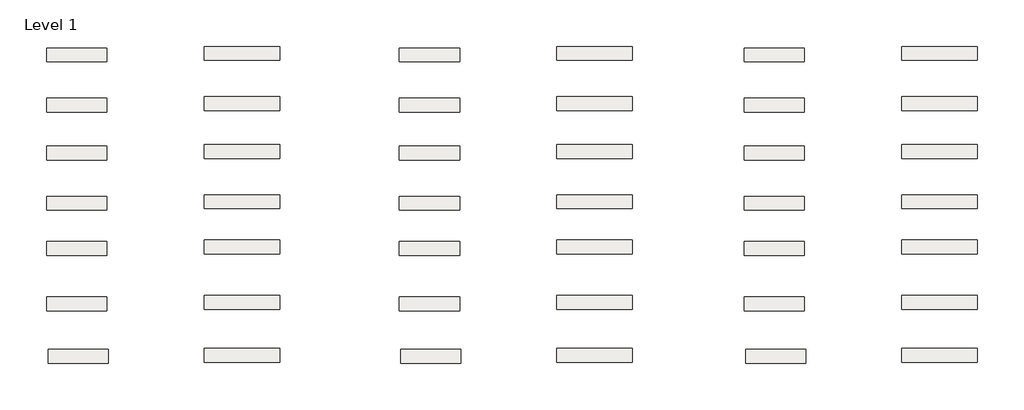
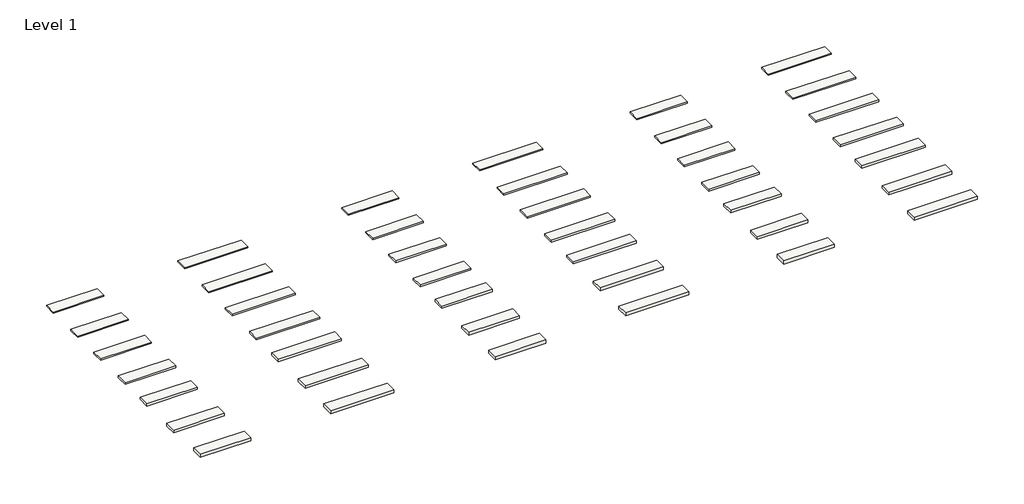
# One storey: 42 roofs.
"""IFC4 building model written with IfcOpenShell, lengths in millimetres."""

from ifc_helpers import new_model, si_unit, origin, origin_with_axes, place, context, project, spatial, polyline, outline, extrude, element, save

model = new_model("IFC4")

# Units and contexts
model_context = context("Model", 3, world=origin())
ifc_project = project(units=[si_unit("LENGTHUNIT", "METRE", prefix="MILLI")], contexts=[model_context])

# Site, building, storey
site = spatial("IfcSite", under=ifc_project)
building = spatial("IfcBuilding", under=site)
storey = spatial("IfcBuildingStorey", under=building, Name="Level 1", Elevation=0.0)

# Roofs
placement = place(None, origin())
element("IfcRoof", 1, ObjectType="Panel Thermochip TH 10-40 (2400x550)", at=placement, inside=storey, context=model_context, shape_type="SweptSolid", body=[
    extrude(outline(polyline([(-17878.9678788, 6399.8223879), (-15478.9678788, 6399.8223879), (-15478.9678788, 5849.8223879), (-17878.9678788, 5849.8223879), (-17878.9678788, 6399.8223879)])), origin_with_axes(), (0.0, 0.0, 1.0), 50.0),
])
element("IfcRoof", 2, ObjectType="Panel Thermochip TH 10-50 (2400x550)", at=placement, inside=storey, context=model_context, shape_type="SweptSolid", body=[
    extrude(outline(polyline([(-17878.9678788, 4399.8223879), (-15478.9678788, 4399.8223879), (-15478.9678788, 3849.8223879), (-17878.9678788, 3849.8223879), (-17878.9678788, 4399.8223879)])), origin_with_axes(), (0.0, 0.0, 1.0), 60.0),
])
element("IfcRoof", 3, ObjectType="Panel Thermochip TH 10-60 (2400x550)", at=placement, inside=storey, context=model_context, shape_type="SweptSolid", body=[
    extrude(outline(polyline([(-17878.9678788, 2499.8223879), (-15478.9678788, 2499.8223879), (-15478.9678788, 1949.8223879), (-17878.9678788, 1949.8223879), (-17878.9678788, 2499.8223879)])), origin_with_axes(), (0.0, 0.0, 1.0), 70.0),
])
element("IfcRoof", 4, ObjectType="Panel Thermochip TH 10-80 (2400x550)", at=placement, inside=storey, context=model_context, shape_type="SweptSolid", body=[
    extrude(outline(polyline([(-17878.9678788, 499.8223879), (-15478.9678788, 499.8223879), (-15478.9678788, -50.1776121), (-17878.9678788, -50.1776121), (-17878.9678788, 499.8223879)])), origin_with_axes(), (0.0, 0.0, 1.0), 90.0),
])
element("IfcRoof", 5, ObjectType="Panel Thermochip TH 10-100 (2400x550)", at=placement, inside=storey, context=model_context, shape_type="SweptSolid", body=[
    extrude(outline(polyline([(-17878.9678788, -1300.1776121), (-15478.9678788, -1300.1776121), (-15478.9678788, -1850.1776121), (-17878.9678788, -1850.1776121), (-17878.9678788, -1300.1776121)])), origin_with_axes(), (0.0, 0.0, 1.0), 110.0),
])
element("IfcRoof", 6, ObjectType="Panel Thermochip TH 10-120 (2400x550)", at=placement, inside=storey, context=model_context, shape_type="SweptSolid", body=[
    extrude(outline(polyline([(-17878.9678788, -3500.1776121), (-15478.9678788, -3500.1776121), (-15478.9678788, -4050.1776121), (-17878.9678788, -4050.1776121), (-17878.9678788, -3500.1776121)])), origin_with_axes(), (0.0, 0.0, 1.0), 130.0),
])
element("IfcRoof", 7, ObjectType="Panel Thermochip TH 10-140 (2400x550)", at=placement, inside=storey, context=model_context, shape_type="SweptSolid", body=[
    extrude(outline(polyline([(-17820.3390717, -5581.0046098), (-15420.3390717, -5581.0046098), (-15420.3390717, -6131.0046098), (-17820.3390717, -6131.0046098), (-17820.3390717, -5581.0046098)])), origin_with_axes(), (0.0, 0.0, 1.0), 150.0),
])
element("IfcRoof", 8, ObjectType="Panel Thermochip TH 10-40 (3000x550)", at=placement, inside=storey, context=model_context, shape_type="SweptSolid", body=[
    extrude(outline(polyline([(-11610.4474716, 6460.3549134), (-8610.4474716, 6460.3549134), (-8610.4474716, 5910.3549134), (-11610.4474716, 5910.3549134), (-11610.4474716, 6460.3549134)])), origin_with_axes(), (0.0, 0.0, 1.0), 50.0),
])
element("IfcRoof", 9, ObjectType="Panel Thermochip TH 10-50 (3000x550)", at=placement, inside=storey, context=model_context, shape_type="SweptSolid", body=[
    extrude(outline(polyline([(-11610.4474716, 4460.3549134), (-8610.4474716, 4460.3549134), (-8610.4474716, 3910.3549134), (-11610.4474716, 3910.3549134), (-11610.4474716, 4460.3549134)])), origin_with_axes(), (0.0, 0.0, 1.0), 60.0),
])
element("IfcRoof", 10, ObjectType="Panel Thermochip TH 10-60 (3000x550)", at=placement, inside=storey, context=model_context, shape_type="SweptSolid", body=[
    extrude(outline(polyline([(-11610.4474716, 2560.3549134), (-8610.4474716, 2560.3549134), (-8610.4474716, 2010.3549134), (-11610.4474716, 2010.3549134), (-11610.4474716, 2560.3549134)])), origin_with_axes(), (0.0, 0.0, 1.0), 70.0),
])
element("IfcRoof", 11, ObjectType="Panel Thermochip TH 10-80 (3000x550)", at=placement, inside=storey, context=model_context, shape_type="SweptSolid", body=[
    extrude(outline(polyline([(-11610.4474716, 560.3549134), (-8610.4474716, 560.3549134), (-8610.4474716, 10.3549134), (-11610.4474716, 10.3549134), (-11610.4474716, 560.3549134)])), origin_with_axes(), (0.0, 0.0, 1.0), 90.0),
])
element("IfcRoof", 12, ObjectType="Panel Thermochip TH 10-100 (3000x550)", at=placement, inside=storey, context=model_context, shape_type="SweptSolid", body=[
    extrude(outline(polyline([(-11610.4474716, -1239.6450866), (-8610.4474716, -1239.6450866), (-8610.4474716, -1789.6450866), (-11610.4474716, -1789.6450866), (-11610.4474716, -1239.6450866)])), origin_with_axes(), (0.0, 0.0, 1.0), 110.0),
])
element("IfcRoof", 13, ObjectType="Panel Thermochip TH 10-120 (3000x600)", at=placement, inside=storey, context=model_context, shape_type="SweptSolid", body=[
    extrude(outline(polyline([(-11610.4474716, -3439.6450866), (-8610.4474716, -3439.6450866), (-8610.4474716, -3989.6450866), (-11610.4474716, -3989.6450866), (-11610.4474716, -3439.6450866)])), origin_with_axes(), (0.0, 0.0, 1.0), 130.0),
])
element("IfcRoof", 14, ObjectType="Panel Thermochip TH 10-140 (3000x550)", at=placement, inside=storey, context=model_context, shape_type="SweptSolid", body=[
    extrude(outline(polyline([(-11610.4474716, -5539.6450866), (-8610.4474716, -5539.6450866), (-8610.4474716, -6089.6450866), (-11610.4474716, -6089.6450866), (-11610.4474716, -5539.6450866)])), origin_with_axes(), (0.0, 0.0, 1.0), 150.0),
])
element("IfcRoof", 15, ObjectType="Panel Thermochip TH 16-40 (2400x550)", at=placement, inside=storey, context=model_context, shape_type="SweptSolid", body=[
    extrude(outline(polyline([(-3878.9678788, 6399.8223879), (-1478.9678788, 6399.8223879), (-1478.9678788, 5849.8223879), (-3878.9678788, 5849.8223879), (-3878.9678788, 6399.8223879)])), origin_with_axes(), (0.0, 0.0, 1.0), 56.0),
])
element("IfcRoof", 16, ObjectType="Panel Thermochip TH 16-50 (2400x550)", at=placement, inside=storey, context=model_context, shape_type="SweptSolid", body=[
    extrude(outline(polyline([(-3878.9678788, 4399.8223879), (-1478.9678788, 4399.8223879), (-1478.9678788, 3849.8223879), (-3878.9678788, 3849.8223879), (-3878.9678788, 4399.8223879)])), origin_with_axes(), (0.0, 0.0, 1.0), 66.0),
])
element("IfcRoof", 17, ObjectType="Panel Thermochip TH 16-60 (2400x550)", at=placement, inside=storey, context=model_context, shape_type="SweptSolid", body=[
    extrude(outline(polyline([(-3878.9678788, 2499.8223879), (-1478.9678788, 2499.8223879), (-1478.9678788, 1949.8223879), (-3878.9678788, 1949.8223879), (-3878.9678788, 2499.8223879)])), origin_with_axes(), (0.0, 0.0, 1.0), 76.0),
])
element("IfcRoof", 18, ObjectType="Panel Thermochip TH 16-80 (2400x550)", at=placement, inside=storey, context=model_context, shape_type="SweptSolid", body=[
    extrude(outline(polyline([(-3878.9678788, 499.8223879), (-1478.9678788, 499.8223879), (-1478.9678788, -50.1776121), (-3878.9678788, -50.1776121), (-3878.9678788, 499.8223879)])), origin_with_axes(), (0.0, 0.0, 1.0), 96.0),
])
element("IfcRoof", 19, ObjectType="Panel Thermochip TH 16-100 (2400x550)", at=placement, inside=storey, context=model_context, shape_type="SweptSolid", body=[
    extrude(outline(polyline([(-3878.9678788, -1300.1776121), (-1478.9678788, -1300.1776121), (-1478.9678788, -1850.1776121), (-3878.9678788, -1850.1776121), (-3878.9678788, -1300.1776121)])), origin_with_axes(), (0.0, 0.0, 1.0), 116.0),
])
element("IfcRoof", 20, ObjectType="Panel Thermochip TH 16-120 (2400x550)", at=placement, inside=storey, context=model_context, shape_type="SweptSolid", body=[
    extrude(outline(polyline([(-3878.9678788, -3500.1776121), (-1478.9678788, -3500.1776121), (-1478.9678788, -4050.1776121), (-3878.9678788, -4050.1776121), (-3878.9678788, -3500.1776121)])), origin_with_axes(), (0.0, 0.0, 1.0), 136.0),
])
element("IfcRoof", 21, ObjectType="Panel Thermochip TH 16-140 (2400x550)", at=placement, inside=storey, context=model_context, shape_type="SweptSolid", body=[
    extrude(outline(polyline([(-3820.3390717, -5581.0046098), (-1420.3390717, -5581.0046098), (-1420.3390717, -6131.0046098), (-3820.3390717, -6131.0046098), (-3820.3390717, -5581.0046098)])), origin_with_axes(), (0.0, 0.0, 1.0), 156.0),
])
element("IfcRoof", 22, ObjectType="Panel Thermochip TH 16-40 (3000x550)", at=placement, inside=storey, context=model_context, shape_type="SweptSolid", body=[
    extrude(outline(polyline([(2389.5525284, 6460.3549134), (5389.5525284, 6460.3549134), (5389.5525284, 5910.3549134), (2389.5525284, 5910.3549134), (2389.5525284, 6460.3549134)])), origin_with_axes(), (0.0, 0.0, 1.0), 56.0),
])
element("IfcRoof", 23, ObjectType="Panel Thermochip TH 16-50 (3000x550)", at=placement, inside=storey, context=model_context, shape_type="SweptSolid", body=[
    extrude(outline(polyline([(2389.5525284, 4460.3549134), (5389.5525284, 4460.3549134), (5389.5525284, 3910.3549134), (2389.5525284, 3910.3549134), (2389.5525284, 4460.3549134)])), origin_with_axes(), (0.0, 0.0, 1.0), 66.0),
])
element("IfcRoof", 24, ObjectType="Panel Thermochip TH 16-60 (3000x550)", at=placement, inside=storey, context=model_context, shape_type="SweptSolid", body=[
    extrude(outline(polyline([(2389.5525284, 2560.3549134), (5389.5525284, 2560.3549134), (5389.5525284, 2010.3549134), (2389.5525284, 2010.3549134), (2389.5525284, 2560.3549134)])), origin_with_axes(), (0.0, 0.0, 1.0), 76.0),
])
element("IfcRoof", 25, ObjectType="Panel Thermochip TH 16-80 (3000x550)", at=placement, inside=storey, context=model_context, shape_type="SweptSolid", body=[
    extrude(outline(polyline([(2389.5525284, 560.3549134), (5389.5525284, 560.3549134), (5389.5525284, 10.3549134), (2389.5525284, 10.3549134), (2389.5525284, 560.3549134)])), origin_with_axes(), (0.0, 0.0, 1.0), 96.0),
])
element("IfcRoof", 26, ObjectType="Panel Thermochip TH 16-100 (3000x550)", at=placement, inside=storey, context=model_context, shape_type="SweptSolid", body=[
    extrude(outline(polyline([(2389.5525284, -1239.6450866), (5389.5525284, -1239.6450866), (5389.5525284, -1789.6450866), (2389.5525284, -1789.6450866), (2389.5525284, -1239.6450866)])), origin_with_axes(), (0.0, 0.0, 1.0), 116.0),
])
element("IfcRoof", 27, ObjectType="Panel Thermochip TH 16-120 (3000x600)", at=placement, inside=storey, context=model_context, shape_type="SweptSolid", body=[
    extrude(outline(polyline([(2389.5525284, -3439.6450866), (5389.5525284, -3439.6450866), (5389.5525284, -3989.6450866), (2389.5525284, -3989.6450866), (2389.5525284, -3439.6450866)])), origin_with_axes(), (0.0, 0.0, 1.0), 136.0),
])
element("IfcRoof", 28, ObjectType="Panel Thermochip TH 16-140 (3000x550)", at=placement, inside=storey, context=model_context, shape_type="SweptSolid", body=[
    extrude(outline(polyline([(2389.5525284, -5539.6450866), (5389.5525284, -5539.6450866), (5389.5525284, -6089.6450866), (2389.5525284, -6089.6450866), (2389.5525284, -5539.6450866)])), origin_with_axes(), (0.0, 0.0, 1.0), 156.0),
])
element("IfcRoof", 29, ObjectType="Panel Thermochip TH 19-40 (2400x550)", at=placement, inside=storey, context=model_context, shape_type="SweptSolid", body=[
    extrude(outline(polyline([(9821.0321212, 6399.8223879), (12221.0321212, 6399.8223879), (12221.0321212, 5849.8223879), (9821.0321212, 5849.8223879), (9821.0321212, 6399.8223879)])), origin_with_axes(), (0.0, 0.0, 1.0), 59.0),
])
element("IfcRoof", 30, ObjectType="Panel Thermochip TH 19-50 (2400x550)", at=placement, inside=storey, context=model_context, shape_type="SweptSolid", body=[
    extrude(outline(polyline([(9821.0321212, 4399.8223879), (12221.0321212, 4399.8223879), (12221.0321212, 3849.8223879), (9821.0321212, 3849.8223879), (9821.0321212, 4399.8223879)])), origin_with_axes(), (0.0, 0.0, 1.0), 69.0),
])
element("IfcRoof", 31, ObjectType="Panel Thermochip TH 19-60 (2400x550)", at=placement, inside=storey, context=model_context, shape_type="SweptSolid", body=[
    extrude(outline(polyline([(9821.0321212, 2499.8223879), (12221.0321212, 2499.8223879), (12221.0321212, 1949.8223879), (9821.0321212, 1949.8223879), (9821.0321212, 2499.8223879)])), origin_with_axes(), (0.0, 0.0, 1.0), 79.0),
])
element("IfcRoof", 32, ObjectType="Panel Thermochip TH 19-80 (2400x550)", at=placement, inside=storey, context=model_context, shape_type="SweptSolid", body=[
    extrude(outline(polyline([(9821.0321212, 499.8223879), (12221.0321212, 499.8223879), (12221.0321212, -50.1776121), (9821.0321212, -50.1776121), (9821.0321212, 499.8223879)])), origin_with_axes(), (0.0, 0.0, 1.0), 99.0),
])
element("IfcRoof", 33, ObjectType="Panel Thermochip TH 19-100 (2400x550)", at=placement, inside=storey, context=model_context, shape_type="SweptSolid", body=[
    extrude(outline(polyline([(9821.0321212, -1300.1776121), (12221.0321212, -1300.1776121), (12221.0321212, -1850.1776121), (9821.0321212, -1850.1776121), (9821.0321212, -1300.1776121)])), origin_with_axes(), (0.0, 0.0, 1.0), 119.0),
])
element("IfcRoof", 34, ObjectType="Panel Thermochip TH 19-120 (2400x550)", at=placement, inside=storey, context=model_context, shape_type="SweptSolid", body=[
    extrude(outline(polyline([(9821.0321212, -3500.1776121), (12221.0321212, -3500.1776121), (12221.0321212, -4050.1776121), (9821.0321212, -4050.1776121), (9821.0321212, -3500.1776121)])), origin_with_axes(), (0.0, 0.0, 1.0), 139.0),
])
element("IfcRoof", 35, ObjectType="Panel Thermochip TH 19-140 (2400x550)", at=placement, inside=storey, context=model_context, shape_type="SweptSolid", body=[
    extrude(outline(polyline([(9879.6609283, -5581.0046098), (12279.6609283, -5581.0046098), (12279.6609283, -6131.0046098), (9879.6609283, -6131.0046098), (9879.6609283, -5581.0046098)])), origin_with_axes(), (0.0, 0.0, 1.0), 159.0),
])
element("IfcRoof", 36, ObjectType="Panel Thermochip TH 19-40 (3000x550)", at=placement, inside=storey, context=model_context, shape_type="SweptSolid", body=[
    extrude(outline(polyline([(16089.5525284, 6460.3549134), (19089.5525284, 6460.3549134), (19089.5525284, 5910.3549134), (16089.5525284, 5910.3549134), (16089.5525284, 6460.3549134)])), origin_with_axes(), (0.0, 0.0, 1.0), 59.0),
])
element("IfcRoof", 37, ObjectType="Panel Thermochip TH 19-50 (3000x550)", at=placement, inside=storey, context=model_context, shape_type="SweptSolid", body=[
    extrude(outline(polyline([(16089.5525284, 4460.3549134), (19089.5525284, 4460.3549134), (19089.5525284, 3910.3549134), (16089.5525284, 3910.3549134), (16089.5525284, 4460.3549134)])), origin_with_axes(), (0.0, 0.0, 1.0), 69.0),
])
element("IfcRoof", 38, ObjectType="Panel Thermochip TH 19-60 (3000x550)", at=placement, inside=storey, context=model_context, shape_type="SweptSolid", body=[
    extrude(outline(polyline([(16089.5525284, 2560.3549134), (19089.5525284, 2560.3549134), (19089.5525284, 2010.3549134), (16089.5525284, 2010.3549134), (16089.5525284, 2560.3549134)])), origin_with_axes(), (0.0, 0.0, 1.0), 79.0),
])
element("IfcRoof", 39, ObjectType="Panel Thermochip TH 19-80 (3000x550)", at=placement, inside=storey, context=model_context, shape_type="SweptSolid", body=[
    extrude(outline(polyline([(16089.5525284, 560.3549134), (19089.5525284, 560.3549134), (19089.5525284, 10.3549134), (16089.5525284, 10.3549134), (16089.5525284, 560.3549134)])), origin_with_axes(), (0.0, 0.0, 1.0), 99.0),
])
element("IfcRoof", 40, ObjectType="Panel Thermochip TH 19-100 (3000x550)", at=placement, inside=storey, context=model_context, shape_type="SweptSolid", body=[
    extrude(outline(polyline([(16089.5525284, -1239.6450866), (19089.5525284, -1239.6450866), (19089.5525284, -1789.6450866), (16089.5525284, -1789.6450866), (16089.5525284, -1239.6450866)])), origin_with_axes(), (0.0, 0.0, 1.0), 119.0),
])
element("IfcRoof", 41, ObjectType="Panel Thermochip TH 19-120 (3000x600)", at=placement, inside=storey, context=model_context, shape_type="SweptSolid", body=[
    extrude(outline(polyline([(16089.5525284, -3439.6450866), (19089.5525284, -3439.6450866), (19089.5525284, -3989.6450866), (16089.5525284, -3989.6450866), (16089.5525284, -3439.6450866)])), origin_with_axes(), (0.0, 0.0, 1.0), 139.0),
])
element("IfcRoof", 42, ObjectType="Panel Thermochip TH 19-140 (3000x550)", at=placement, inside=storey, context=model_context, shape_type="SweptSolid", body=[
    extrude(outline(polyline([(16089.5525284, -5539.6450866), (19089.5525284, -5539.6450866), (19089.5525284, -6089.6450866), (16089.5525284, -6089.6450866), (16089.5525284, -5539.6450866)])), origin_with_axes(), (0.0, 0.0, 1.0), 159.0),
])

save(model, "model.ifc")
